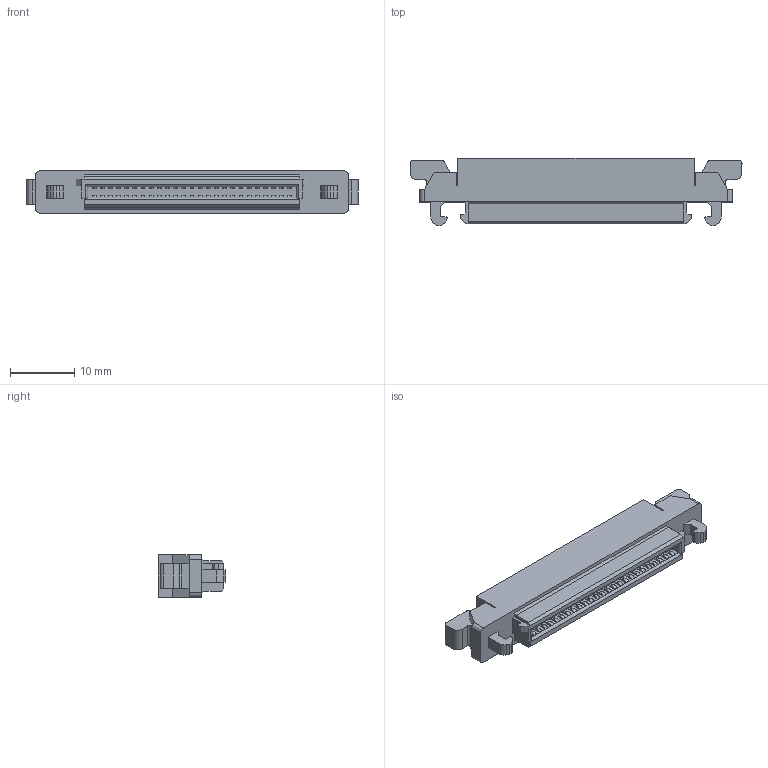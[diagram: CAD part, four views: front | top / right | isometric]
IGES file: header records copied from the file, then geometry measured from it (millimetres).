
Start section: Elysium IGES Interface
Global section: file name: 97HF:\恾柺搊榐\3DCAD\89XX\仛89钾敖迱粫i3D仛\web梡恾柺\4-IGES(恾斣_惢昳柤)\P39478_8925R-050-179-F.igs; native system: CoCreate Modeling 17.0B  09-Oct-2010; preprocessor: CoCreate IGES_3D V2.2; author: Unknown; organization: Unknown; date: 20180116.155331; units: millimetre
Bounding box: 51.69 x 10.5 x 6.6 mm (x, y, z)
Volume: 2486.9 mm3; surface area: 2003.4 mm2
Topology: 1 solids, 1 shells, 378 faces, 1102 edges, 730 vertices
Faces by surface type: bspline 378
